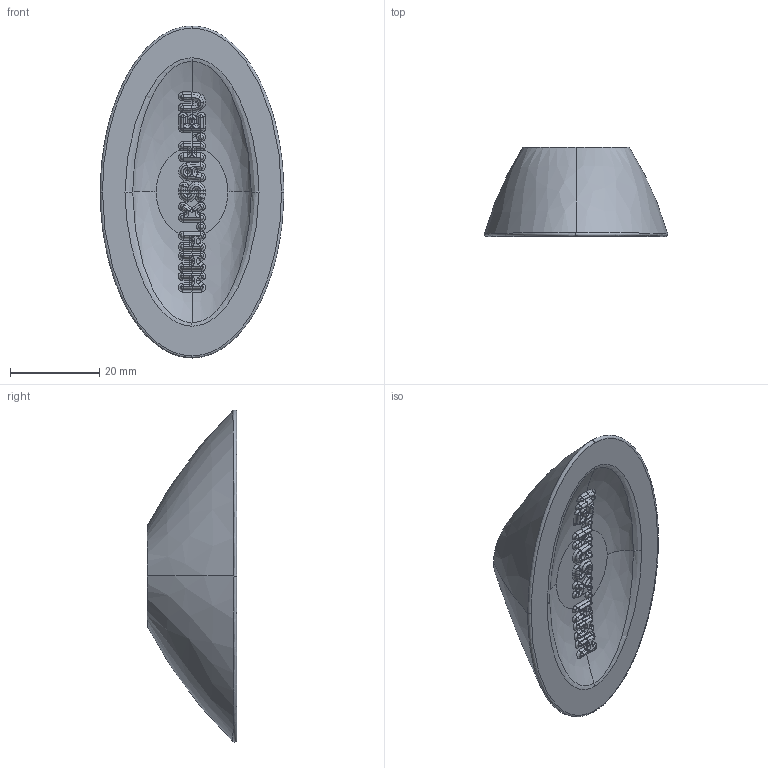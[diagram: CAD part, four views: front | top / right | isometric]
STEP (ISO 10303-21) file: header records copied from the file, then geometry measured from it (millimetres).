
FILE_DESCRIPTION (( 'STEP AP214' ), '1' );
FILE_NAME ('TstT00022.STEP', '2025-01-21T14:03:24', ( '' ), ( '' ), 'SwSTEP 2.0', 'SolidWorks 2020', '' );
FILE_SCHEMA (( 'AUTOMOTIVE_DESIGN' ));
Length unit declared in the file: millimetre
Products named in the file (1): TstT00022
Bounding box: 41.06 x 20 x 74.27 mm (x, y, z)
Volume: 24776.9 mm3; surface area: 6458.1 mm2
Topology: 1 solids, 1 shells, 515 faces, 1211 edges, 675 vertices
Faces by surface type: bspline 228, cylinder 132, torus 68, plane 57, sphere 30
Entity records: 24535 total; most frequent: CARTESIAN_POINT 14626, ORIENTED_EDGE 2310, DIRECTION 1746, EDGE_CURVE 1155, AXIS2_PLACEMENT_3D 765, VERTEX_POINT 647, EDGE_LOOP 516, ADVANCED_FACE 513
